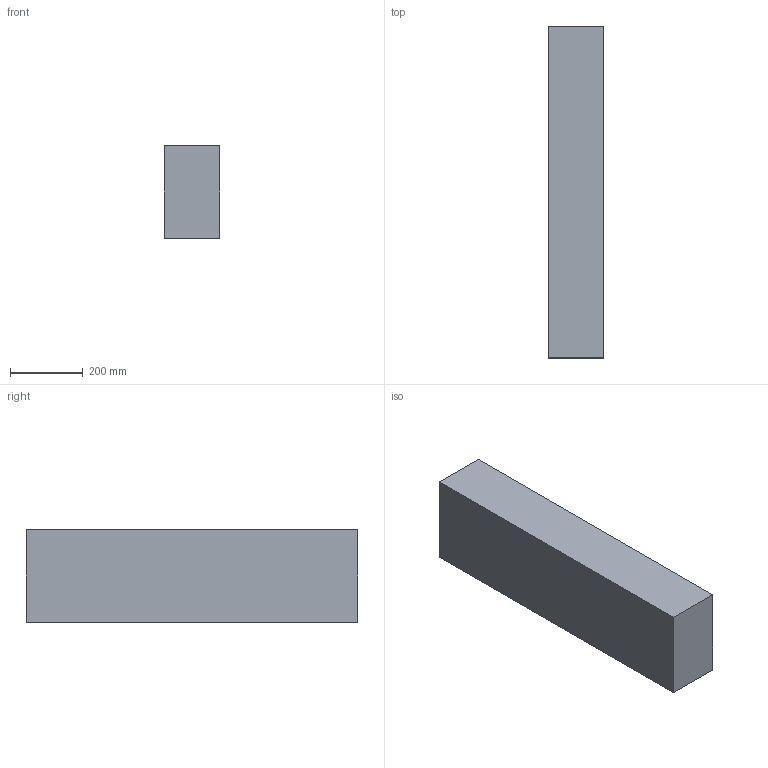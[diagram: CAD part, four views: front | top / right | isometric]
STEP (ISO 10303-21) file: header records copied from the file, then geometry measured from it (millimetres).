
FILE_DESCRIPTION(/* description */ (''),/* implementation_level */ '2;1');
FILE_NAME(/* name */ '6x10x36',/* time_stamp */ '2024-09-20T11:47:00-05:00',/* author */ (''),/* organization */ (''),/* preprocessor_version */ 'ST-DEVELOPER v19.2',/* originating_system */ 'Rhino 8.5',/* authorisation */ '');
FILE_SCHEMA (('CONFIG_CONTROL_DESIGN'));
Length unit declared in the file: inch
Products named in the file (1): Document
Bounding box: 152.4 x 914.4 x 254 mm (x, y, z)
Volume: 35396058.2 mm3; surface area: 820643.5 mm2
Topology: 1 solids, 1 shells, 6 faces, 12 edges, 8 vertices
Faces by surface type: plane 6
Entity records: 226 total; most frequent: CARTESIAN_POINT 40, ORIENTED_EDGE 24, EDGE_CURVE 12, B_SPLINE_CURVE_WITH_KNOTS 12, DIRECTION 10, VERTEX_POINT 8, AXIS2_PLACEMENT_3D 8, ORGANIZATION 7
